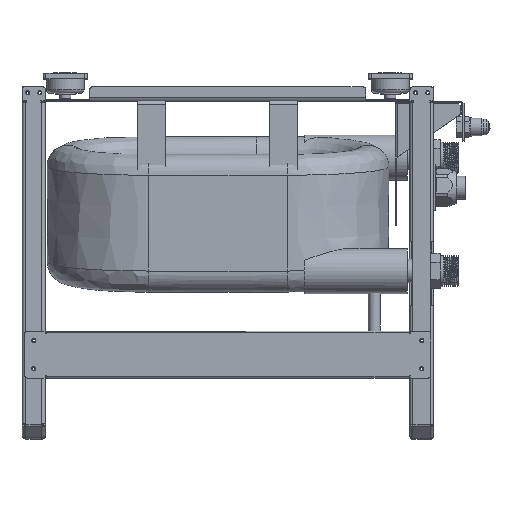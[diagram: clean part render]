
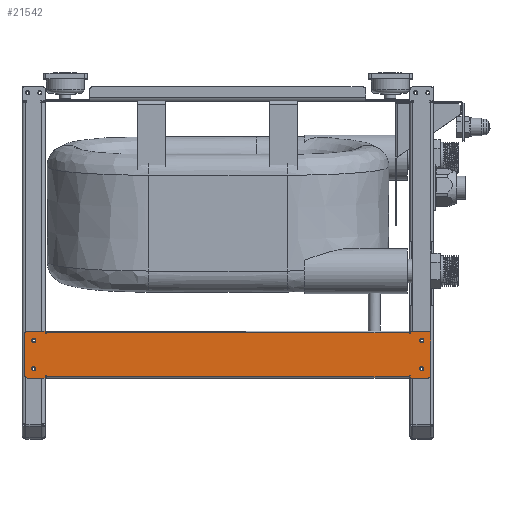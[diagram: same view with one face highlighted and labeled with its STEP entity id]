
A CAD part, top view. The second image highlights one B-rep face of the part: STEP entity #21542.
In plain terms, the highlighted planar face has unit normal (0, 0, 1).
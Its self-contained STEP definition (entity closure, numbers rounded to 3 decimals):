
#1098=FACE_BOUND('',#8063,.T.);
#1099=FACE_BOUND('',#8064,.T.);
#1100=FACE_BOUND('',#8065,.T.);
#1101=FACE_BOUND('',#8066,.T.);
#1603=PLANE('',#23630);
#3067=LINE('',#36349,#4914);
#3089=LINE('',#36410,#4936);
#3091=LINE('',#36414,#4938);
#3092=LINE('',#36416,#4939);
#3093=LINE('',#36418,#4940);
#3094=LINE('',#36420,#4941);
#3095=LINE('',#36422,#4942);
#3096=LINE('',#36424,#4943);
#3097=LINE('',#36426,#4944);
#3098=LINE('',#36428,#4945);
#3099=LINE('',#36432,#4946);
#3100=LINE('',#36436,#4947);
#3101=LINE('',#36438,#4948);
#3102=LINE('',#36440,#4949);
#3103=LINE('',#36442,#4950);
#3104=LINE('',#36444,#4951);
#3105=LINE('',#36446,#4952);
#3106=LINE('',#36448,#4953);
#3107=LINE('',#36449,#4954);
#3108=LINE('',#36450,#4955);
#4914=VECTOR('',#27995,10.);
#4936=VECTOR('',#28039,10.);
#4938=VECTOR('',#28043,10.);
#4939=VECTOR('',#28044,10.);
#4940=VECTOR('',#28045,10.);
#4941=VECTOR('',#28046,10.);
#4942=VECTOR('',#28047,10.);
#4943=VECTOR('',#28048,10.);
#4944=VECTOR('',#28049,10.);
#4945=VECTOR('',#28050,10.);
#4946=VECTOR('',#28053,10.);
#4947=VECTOR('',#28056,10.);
#4948=VECTOR('',#28057,10.);
#4949=VECTOR('',#28058,10.);
#4950=VECTOR('',#28059,10.);
#4951=VECTOR('',#28060,10.);
#4952=VECTOR('',#28061,10.);
#4953=VECTOR('',#28062,10.);
#4954=VECTOR('',#28063,10.);
#4955=VECTOR('',#28064,10.);
#6660=FACE_OUTER_BOUND('',#8062,.T.);
#8062=EDGE_LOOP('',(#18122,#18123,#18124,#18125,#18126,#18127,#18128,#18129,
#18130,#18131,#18132,#18133,#18134,#18135,#18136,#18137,#18138,#18139,#18140,
#18141,#18142,#18143,#18144,#18145));
#8063=EDGE_LOOP('',(#18146));
#8064=EDGE_LOOP('',(#18147));
#8065=EDGE_LOOP('',(#18148));
#8066=EDGE_LOOP('',(#18149));
#9134=CIRCLE('',#23616,3.);
#9143=CIRCLE('',#23628,3.);
#9144=CIRCLE('',#23631,3.);
#9145=CIRCLE('',#23632,3.);
#9146=CIRCLE('',#23633,2.25);
#9147=CIRCLE('',#23634,2.25);
#9148=CIRCLE('',#23635,2.25);
#9149=CIRCLE('',#23636,2.25);
#10618=VERTEX_POINT('',#36336);
#10619=VERTEX_POINT('',#36337);
#10623=VERTEX_POINT('',#36347);
#10649=VERTEX_POINT('',#36403);
#10650=VERTEX_POINT('',#36404);
#10651=VERTEX_POINT('',#36409);
#10652=VERTEX_POINT('',#36413);
#10653=VERTEX_POINT('',#36415);
#10654=VERTEX_POINT('',#36417);
#10655=VERTEX_POINT('',#36419);
#10656=VERTEX_POINT('',#36421);
#10657=VERTEX_POINT('',#36423);
#10658=VERTEX_POINT('',#36425);
#10659=VERTEX_POINT('',#36427);
#10660=VERTEX_POINT('',#36429);
#10661=VERTEX_POINT('',#36431);
#10662=VERTEX_POINT('',#36433);
#10663=VERTEX_POINT('',#36435);
#10664=VERTEX_POINT('',#36437);
#10665=VERTEX_POINT('',#36439);
#10666=VERTEX_POINT('',#36441);
#10667=VERTEX_POINT('',#36443);
#10668=VERTEX_POINT('',#36445);
#10669=VERTEX_POINT('',#36447);
#10670=VERTEX_POINT('',#36451);
#10671=VERTEX_POINT('',#36453);
#10672=VERTEX_POINT('',#36455);
#10673=VERTEX_POINT('',#36457);
#13222=EDGE_CURVE('',#10618,#10619,#9134,.T.);
#13228=EDGE_CURVE('',#10623,#10618,#3067,.T.);
#13255=EDGE_CURVE('',#10649,#10650,#9143,.T.);
#13258=EDGE_CURVE('',#10650,#10651,#3089,.T.);
#13260=EDGE_CURVE('',#10623,#10652,#3091,.T.);
#13261=EDGE_CURVE('',#10652,#10653,#3092,.T.);
#13262=EDGE_CURVE('',#10653,#10654,#3093,.T.);
#13263=EDGE_CURVE('',#10654,#10655,#3094,.T.);
#13264=EDGE_CURVE('',#10655,#10656,#3095,.T.);
#13265=EDGE_CURVE('',#10656,#10657,#3096,.T.);
#13266=EDGE_CURVE('',#10657,#10658,#3097,.T.);
#13267=EDGE_CURVE('',#10659,#10658,#3098,.T.);
#13268=EDGE_CURVE('',#10660,#10659,#9144,.T.);
#13269=EDGE_CURVE('',#10661,#10660,#3099,.T.);
#13270=EDGE_CURVE('',#10662,#10661,#9145,.T.);
#13271=EDGE_CURVE('',#10663,#10662,#3100,.T.);
#13272=EDGE_CURVE('',#10663,#10664,#3101,.T.);
#13273=EDGE_CURVE('',#10664,#10665,#3102,.T.);
#13274=EDGE_CURVE('',#10665,#10666,#3103,.T.);
#13275=EDGE_CURVE('',#10666,#10667,#3104,.T.);
#13276=EDGE_CURVE('',#10667,#10668,#3105,.T.);
#13277=EDGE_CURVE('',#10668,#10669,#3106,.T.);
#13278=EDGE_CURVE('',#10669,#10651,#3107,.T.);
#13279=EDGE_CURVE('',#10619,#10649,#3108,.T.);
#13280=EDGE_CURVE('',#10670,#10670,#9146,.T.);
#13281=EDGE_CURVE('',#10671,#10671,#9147,.T.);
#13282=EDGE_CURVE('',#10672,#10672,#9148,.T.);
#13283=EDGE_CURVE('',#10673,#10673,#9149,.T.);
#18122=ORIENTED_EDGE('',*,*,#13222,.F.);
#18123=ORIENTED_EDGE('',*,*,#13228,.F.);
#18124=ORIENTED_EDGE('',*,*,#13260,.T.);
#18125=ORIENTED_EDGE('',*,*,#13261,.T.);
#18126=ORIENTED_EDGE('',*,*,#13262,.T.);
#18127=ORIENTED_EDGE('',*,*,#13263,.T.);
#18128=ORIENTED_EDGE('',*,*,#13264,.T.);
#18129=ORIENTED_EDGE('',*,*,#13265,.T.);
#18130=ORIENTED_EDGE('',*,*,#13266,.T.);
#18131=ORIENTED_EDGE('',*,*,#13267,.F.);
#18132=ORIENTED_EDGE('',*,*,#13268,.F.);
#18133=ORIENTED_EDGE('',*,*,#13269,.F.);
#18134=ORIENTED_EDGE('',*,*,#13270,.F.);
#18135=ORIENTED_EDGE('',*,*,#13271,.F.);
#18136=ORIENTED_EDGE('',*,*,#13272,.T.);
#18137=ORIENTED_EDGE('',*,*,#13273,.T.);
#18138=ORIENTED_EDGE('',*,*,#13274,.T.);
#18139=ORIENTED_EDGE('',*,*,#13275,.T.);
#18140=ORIENTED_EDGE('',*,*,#13276,.T.);
#18141=ORIENTED_EDGE('',*,*,#13277,.T.);
#18142=ORIENTED_EDGE('',*,*,#13278,.T.);
#18143=ORIENTED_EDGE('',*,*,#13258,.F.);
#18144=ORIENTED_EDGE('',*,*,#13255,.F.);
#18145=ORIENTED_EDGE('',*,*,#13279,.F.);
#18146=ORIENTED_EDGE('',*,*,#13280,.T.);
#18147=ORIENTED_EDGE('',*,*,#13281,.T.);
#18148=ORIENTED_EDGE('',*,*,#13282,.T.);
#18149=ORIENTED_EDGE('',*,*,#13283,.T.);
#21542=ADVANCED_FACE('',(#6660,#1098,#1099,#1100,#1101),#1603,.T.);
#23616=AXIS2_PLACEMENT_3D('',#36338,#27985,#27986);
#23628=AXIS2_PLACEMENT_3D('',#36405,#28033,#28034);
#23630=AXIS2_PLACEMENT_3D('',#36412,#28041,#28042);
#23631=AXIS2_PLACEMENT_3D('',#36430,#28051,#28052);
#23632=AXIS2_PLACEMENT_3D('',#36434,#28054,#28055);
#23633=AXIS2_PLACEMENT_3D('',#36452,#28065,#28066);
#23634=AXIS2_PLACEMENT_3D('',#36454,#28067,#28068);
#23635=AXIS2_PLACEMENT_3D('',#36456,#28069,#28070);
#23636=AXIS2_PLACEMENT_3D('',#36458,#28071,#28072);
#27985=DIRECTION('center_axis',(0.,0.,-1.));
#27986=DIRECTION('ref_axis',(0.707,0.707,0.));
#27995=DIRECTION('',(1.,0.,0.));
#28033=DIRECTION('center_axis',(0.,0.,-1.));
#28034=DIRECTION('ref_axis',(0.707,-0.707,0.));
#28039=DIRECTION('',(-1.,0.,0.));
#28041=DIRECTION('center_axis',(0.,0.,1.));
#28042=DIRECTION('ref_axis',(1.,0.,0.));
#28043=DIRECTION('',(0.,-1.,0.));
#28044=DIRECTION('',(-1.,0.,0.));
#28045=DIRECTION('',(0.,1.,0.));
#28046=DIRECTION('',(-1.,0.,0.));
#28047=DIRECTION('',(0.,-1.,0.));
#28048=DIRECTION('',(-1.,0.,0.));
#28049=DIRECTION('',(0.,1.,0.));
#28050=DIRECTION('',(1.,0.,0.));
#28051=DIRECTION('center_axis',(0.,0.,-1.));
#28052=DIRECTION('ref_axis',(-0.707,0.707,0.));
#28053=DIRECTION('',(0.,1.,0.));
#28054=DIRECTION('center_axis',(0.,0.,-1.));
#28055=DIRECTION('ref_axis',(-0.707,-0.707,0.));
#28056=DIRECTION('',(-1.,0.,0.));
#28057=DIRECTION('',(0.,1.,0.));
#28058=DIRECTION('',(1.,0.,0.));
#28059=DIRECTION('',(0.,-1.,0.));
#28060=DIRECTION('',(1.,0.,0.));
#28061=DIRECTION('',(0.,1.,0.));
#28062=DIRECTION('',(1.,0.,0.));
#28063=DIRECTION('',(0.,-1.,0.));
#28064=DIRECTION('',(0.,-1.,0.));
#28065=DIRECTION('center_axis',(0.,0.,-1.));
#28066=DIRECTION('ref_axis',(1.,0.,0.));
#28067=DIRECTION('center_axis',(0.,0.,-1.));
#28068=DIRECTION('ref_axis',(1.,0.,0.));
#28069=DIRECTION('center_axis',(0.,0.,-1.));
#28070=DIRECTION('ref_axis',(1.,0.,0.));
#28071=DIRECTION('center_axis',(0.,0.,-1.));
#28072=DIRECTION('ref_axis',(1.,0.,0.));
#36336=CARTESIAN_POINT('',(213.,25.,1.5));
#36337=CARTESIAN_POINT('',(216.,22.,1.5));
#36338=CARTESIAN_POINT('Origin',(213.,22.,1.5));
#36347=CARTESIAN_POINT('',(194.5,25.,1.5));
#36349=CARTESIAN_POINT('',(216.,25.,1.5));
#36403=CARTESIAN_POINT('',(216.,-22.,1.5));
#36404=CARTESIAN_POINT('',(213.,-25.,1.5));
#36405=CARTESIAN_POINT('Origin',(213.,-22.,1.5));
#36409=CARTESIAN_POINT('',(194.5,-25.,1.5));
#36410=CARTESIAN_POINT('',(-216.,-25.,1.5));
#36412=CARTESIAN_POINT('Origin',(0.,0.,
1.5));
#36413=CARTESIAN_POINT('',(194.5,22.745,1.5));
#36414=CARTESIAN_POINT('',(194.5,11.373,1.5));
#36415=CARTESIAN_POINT('',(193.,22.745,1.5));
#36416=CARTESIAN_POINT('',(96.5,22.745,1.5));
#36417=CARTESIAN_POINT('',(193.,23.495,1.5));
#36418=CARTESIAN_POINT('',(193.,12.5,1.5));
#36419=CARTESIAN_POINT('',(-193.,23.495,1.5));
#36420=CARTESIAN_POINT('',(96.5,23.495,1.5));
#36421=CARTESIAN_POINT('',(-193.,22.745,1.5));
#36422=CARTESIAN_POINT('',(-193.,11.373,1.5));
#36423=CARTESIAN_POINT('',(-194.5,22.745,1.5));
#36424=CARTESIAN_POINT('',(-97.25,22.745,1.5));
#36425=CARTESIAN_POINT('',(-194.5,25.,1.5));
#36426=CARTESIAN_POINT('',(-194.5,12.5,1.5));
#36427=CARTESIAN_POINT('',(-213.,25.,1.5));
#36428=CARTESIAN_POINT('',(216.,25.,1.5));
#36429=CARTESIAN_POINT('',(-216.,22.,1.5));
#36430=CARTESIAN_POINT('Origin',(-213.,22.,1.5));
#36431=CARTESIAN_POINT('',(-216.,-22.,1.5));
#36432=CARTESIAN_POINT('',(-216.,25.,1.5));
#36433=CARTESIAN_POINT('',(-213.,-25.,1.5));
#36434=CARTESIAN_POINT('Origin',(-213.,-22.,1.5));
#36435=CARTESIAN_POINT('',(-194.5,-25.,1.5));
#36436=CARTESIAN_POINT('',(-216.,-25.,1.5));
#36437=CARTESIAN_POINT('',(-194.5,-22.745,1.5));
#36438=CARTESIAN_POINT('',(-194.5,-11.373,1.5));
#36439=CARTESIAN_POINT('',(-193.,-22.745,1.5));
#36440=CARTESIAN_POINT('',(-96.5,-22.745,1.5));
#36441=CARTESIAN_POINT('',(-193.,-23.495,1.5));
#36442=CARTESIAN_POINT('',(-193.,-12.5,1.5));
#36443=CARTESIAN_POINT('',(193.,-23.495,1.5));
#36444=CARTESIAN_POINT('',(-96.5,-23.495,1.5));
#36445=CARTESIAN_POINT('',(193.,-22.745,1.5));
#36446=CARTESIAN_POINT('',(193.,-11.373,1.5));
#36447=CARTESIAN_POINT('',(194.5,-22.745,1.5));
#36448=CARTESIAN_POINT('',(97.25,-22.745,1.5));
#36449=CARTESIAN_POINT('',(194.5,-12.5,1.5));
#36450=CARTESIAN_POINT('',(216.,-25.,1.5));
#36451=CARTESIAN_POINT('',(-208.75,15.,1.5));
#36452=CARTESIAN_POINT('Origin',(-206.5,15.,1.5));
#36453=CARTESIAN_POINT('',(-208.75,-15.,1.5));
#36454=CARTESIAN_POINT('Origin',(-206.5,-15.,1.5));
#36455=CARTESIAN_POINT('',(204.25,-15.,1.5));
#36456=CARTESIAN_POINT('Origin',(206.5,-15.,1.5));
#36457=CARTESIAN_POINT('',(204.25,15.,1.5));
#36458=CARTESIAN_POINT('Origin',(206.5,15.,1.5));
